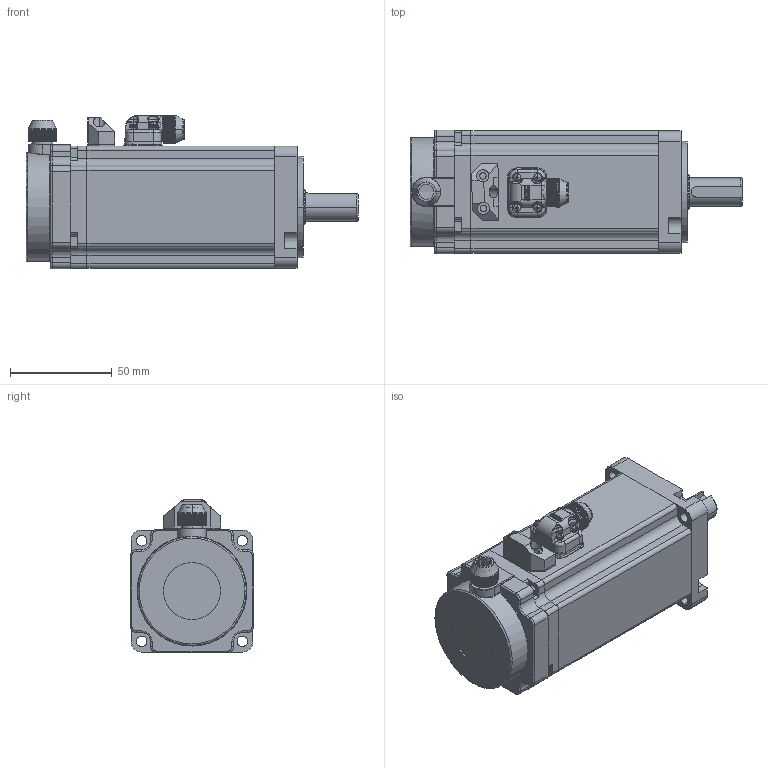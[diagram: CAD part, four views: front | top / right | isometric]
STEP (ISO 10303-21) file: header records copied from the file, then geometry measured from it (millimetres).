
FILE_DESCRIPTION((''),'2;1');
FILE_NAME('600C-600W-Z_ASM_1_ASM','2020-08-06T',('PCBD'),(''),'PRO/ENGINEER BY PARAMETRIC TECHNOLOGY CORPORATION, 2010280','PRO/ENGINEER BY PARAMETRIC TECHNOLOGY CORPORATION, 2010280','');
FILE_SCHEMA(('CONFIG_CONTROL_DESIGN'));
Products named in the file (28): 60C3-JK_2; 60C--QG_1; 60C-HG_1; PRT0005_4; PRT0137_1; PRT0138_1; PRT0139_1; PRT0140_1; PRT0141_1; PRT0142_1; PRT0143_1; PRT0144_1; PRT0145_1; PRT0146_1; PRT0147_1; ASM0039_ASM_1_ASM; PRT0148_1; PRT0149_1; PRT0150_1; PRT0151_1; ASM0038_ASM_1_ASM; 60S-HZ-YF-2_9; PRODUCT_168_1; PRODUCT_1549_1; ASM0006_ASM_1_ASM; YAKUAI_ASM_1_ASM; LUOMU; 600C-600W-Z_ASM_1_ASM
Assembly tree (48 placements, depth 4):
  600C-600W-Z_ASM_1_ASM
    60C3-JK_2
    60C--QG_1
    60C-HG_1
    PRT0005_4
    ASM0038_ASM_1_ASM
      PRT0137_1
      PRT0138_1
      PRT0139_1
      PRT0140_1
      PRT0141_1
      PRT0142_1
      PRT0143_1
      PRT0144_1  x4
      ASM0039_ASM_1_ASM  x4
        PRT0145_1
        PRT0146_1
        PRT0147_1
      PRT0148_1
      PRT0149_1
      PRT0150_1  x8
      PRT0151_1  x9
    60S-HZ-YF-2_9
    YAKUAI_ASM_1_ASM
      ASM0006_ASM_1_ASM
        PRODUCT_168_1
        PRODUCT_1549_1
    LUOMU
Bounding box: 163.3 x 60.8 x 75.6 mm (x, y, z)
Volume: 159363.7 mm3; surface area: 101607.3 mm2
Topology: 50 solids, 50 shells, 6124 faces, 15157 edges, 9021 vertices
Faces by surface type: plane 3241, cylinder 1176, bspline 937, cone 436, sphere 156, torus 135, extrusion 34, revolution 9
Entity records: 142283 total; most frequent: CARTESIAN_POINT 54349, ORIENTED_EDGE 19120, DIRECTION 16664, EDGE_CURVE 9560, VERTEX_POINT 5939, VECTOR 5885, LINE 5865, AXIS2_PLACEMENT_3D 5389
